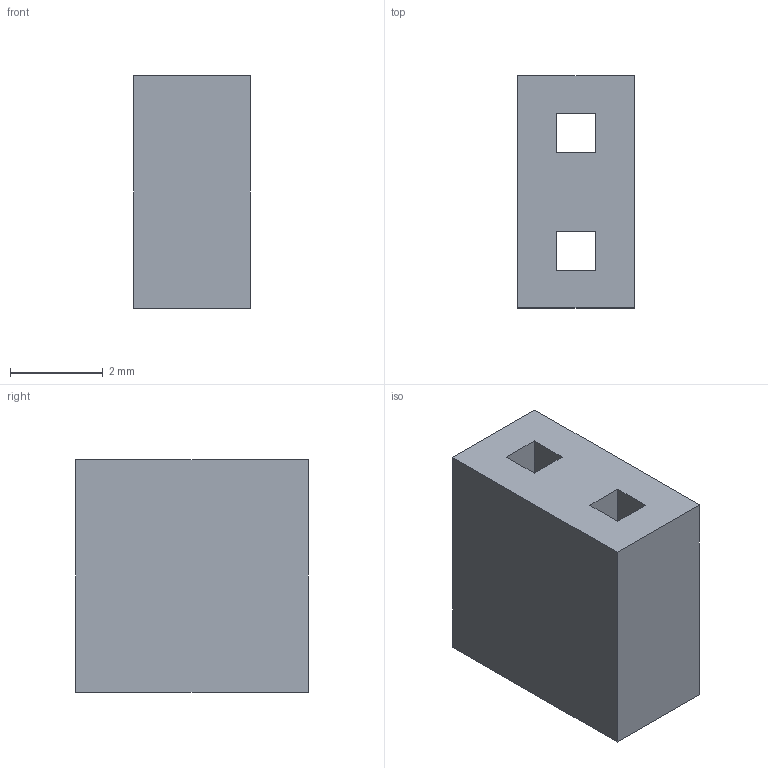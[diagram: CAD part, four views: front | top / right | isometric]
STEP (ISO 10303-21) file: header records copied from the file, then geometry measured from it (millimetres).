
FILE_DESCRIPTION(('Open CASCADE Model'),'2;1');
FILE_NAME('Open CASCADE Shape Model','2026-10-09T18:49:16',('Author'),( 'Open CASCADE'),'Open CASCADE STEP processor 7.9','Open CASCADE 7.9' ,'Unknown');
FILE_SCHEMA(('AUTOMOTIVE_DESIGN { 1 0 10303 214 1 1 1 1 }'));
Length unit declared in the file: millimetre
Products named in the file (2): Jumper_2p54_Shunt; shunt
Assembly tree (1 placements, depth 2):
  Jumper_2p54_Shunt
    shunt
Bounding box: 2.5 x 5 x 5 mm (x, y, z)
Volume: 55.3 mm3; surface area: 131.1 mm2
Topology: 1 solids, 1 shells, 14 faces, 36 edges, 24 vertices
Faces by surface type: plane 14
Entity records: 901 total; most frequent: CARTESIAN_POINT 180, DIRECTION 108, LINE 76, VECTOR 76, ORIENTED_EDGE 72, PCURVE 72, DEFINITIONAL_REPRESENTATION 72, EDGE_CURVE 36
